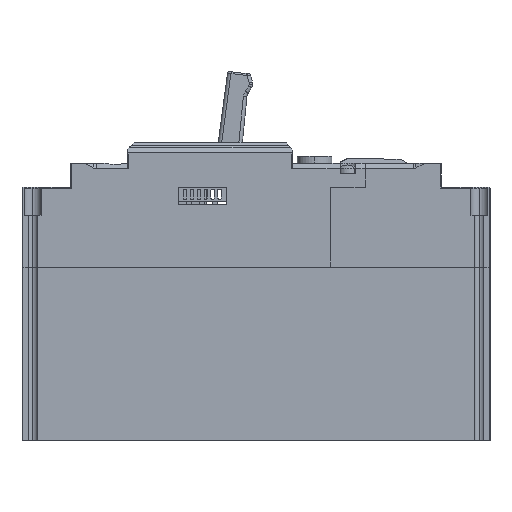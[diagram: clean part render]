
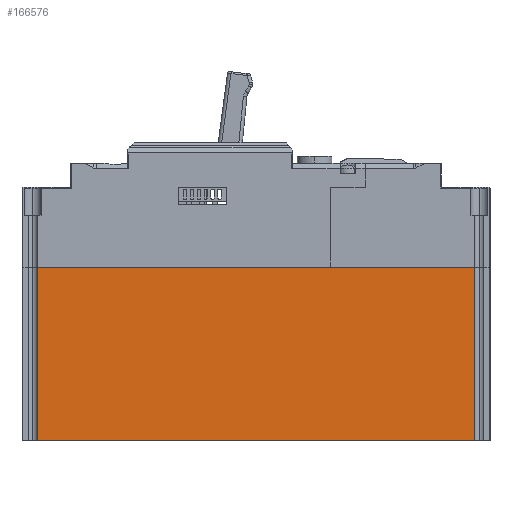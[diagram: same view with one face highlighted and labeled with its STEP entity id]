
A CAD part, left-side view. The second image highlights one B-rep face of the part: STEP entity #166576.
In plain terms, the highlighted planar face has unit normal (-1, 0, 0).
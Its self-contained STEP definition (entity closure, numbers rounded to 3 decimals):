
#7776 = LINE ( 'NONE', #136546, #205055 ) ;
#8474 = VERTEX_POINT ( 'NONE', #24962 ) ;
#16493 = VERTEX_POINT ( 'NONE', #273878 ) ;
#18657 = DIRECTION ( 'NONE',  ( 0., 0., 1. ) ) ;
#20081 = DIRECTION ( 'NONE',  ( 1., 0., 0. ) ) ;
#24962 = CARTESIAN_POINT ( 'NONE',  ( -58.614, 64.098, 23. ) ) ;
#32736 = ORIENTED_EDGE ( 'NONE', *, *, #238697, .F. ) ;
#51295 = EDGE_CURVE ( 'NONE', #199277, #139367, #74514, .T. ) ;
#65528 = CARTESIAN_POINT ( 'NONE',  ( -58.614, -61.902, -27. ) ) ;
#67381 = CARTESIAN_POINT ( 'NONE',  ( -58.614, -61.902, -27. ) ) ;
#74514 = LINE ( 'NONE', #141063, #188660 ) ;
#79400 = FACE_OUTER_BOUND ( 'NONE', #169229, .T. ) ;
#95647 = VECTOR ( 'NONE', #267474, 1000. ) ;
#100941 = ORIENTED_EDGE ( 'NONE', *, *, #190881, .T. ) ;
#108439 = LINE ( 'NONE', #65528, #228925 ) ;
#117318 = DIRECTION ( 'NONE',  ( 0., -1., 0. ) ) ;
#136546 = CARTESIAN_POINT ( 'NONE',  ( -58.614, 68.598, 23. ) ) ;
#139367 = VERTEX_POINT ( 'NONE', #67381 ) ;
#141063 = CARTESIAN_POINT ( 'NONE',  ( -58.614, 68.598, -27. ) ) ;
#151784 = PLANE ( 'NONE',  #200716 ) ;
#166576 = ADVANCED_FACE ( 'NONE', ( #79400 ), #151784, .F. ) ;
#166997 = EDGE_CURVE ( 'NONE', #8474, #16493, #7776, .T. ) ;
#169229 = EDGE_LOOP ( 'NONE', ( #248885, #100941, #271397, #32736 ) ) ;
#179252 = DIRECTION ( 'NONE',  ( 0., 0., 1. ) ) ;
#179735 = CARTESIAN_POINT ( 'NONE',  ( -58.614, 68.598, 23. ) ) ;
#188660 = VECTOR ( 'NONE', #275419, 1000. ) ;
#190881 = EDGE_CURVE ( 'NONE', #139367, #16493, #108439, .T. ) ;
#199277 = VERTEX_POINT ( 'NONE', #239260 ) ;
#200716 = AXIS2_PLACEMENT_3D ( 'NONE', #179735, #20081, #18657 ) ;
#205055 = VECTOR ( 'NONE', #117318, 1000. ) ;
#227580 = LINE ( 'NONE', #291089, #95647 ) ;
#228925 = VECTOR ( 'NONE', #179252, 1000. ) ;
#238697 = EDGE_CURVE ( 'NONE', #199277, #8474, #227580, .T. ) ;
#239260 = CARTESIAN_POINT ( 'NONE',  ( -58.614, 64.098, -27. ) ) ;
#248885 = ORIENTED_EDGE ( 'NONE', *, *, #51295, .T. ) ;
#267474 = DIRECTION ( 'NONE',  ( 0., 0., 1. ) ) ;
#271397 = ORIENTED_EDGE ( 'NONE', *, *, #166997, .F. ) ;
#273878 = CARTESIAN_POINT ( 'NONE',  ( -58.614, -61.902, 23. ) ) ;
#275419 = DIRECTION ( 'NONE',  ( 0., -1., 0. ) ) ;
#291089 = CARTESIAN_POINT ( 'NONE',  ( -58.614, 64.098, -27. ) ) ;
